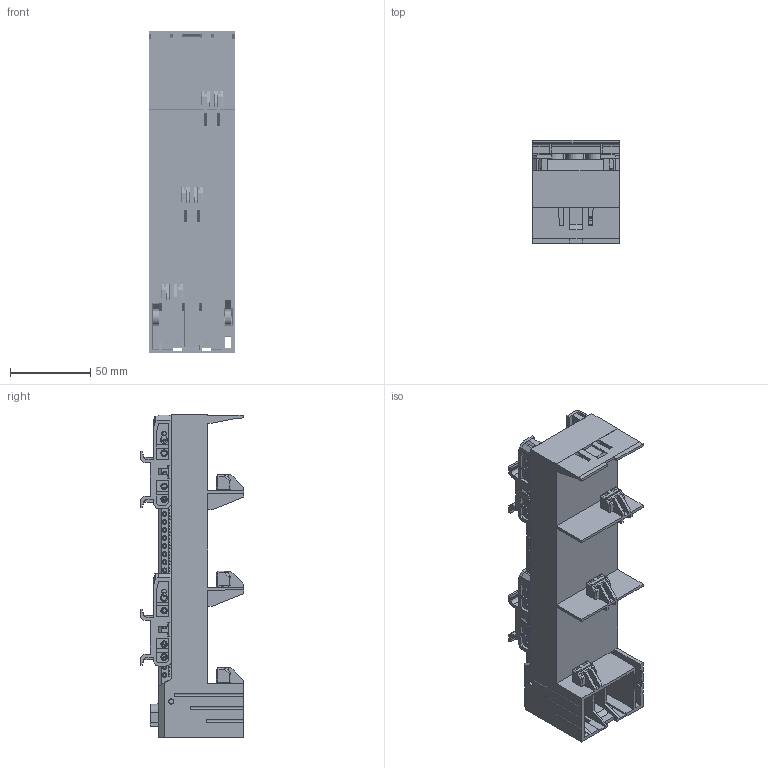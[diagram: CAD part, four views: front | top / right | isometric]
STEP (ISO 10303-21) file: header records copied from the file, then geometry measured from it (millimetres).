
FILE_DESCRIPTION (( 'STEP AP203' ), '1' );
FILE_NAME ('55325.STEP', '2021-08-18T06:55:22', ( '' ), ( '' ), 'SwSTEP 2.0', 'SolidWorks 2017', '' );
FILE_SCHEMA (( 'CONFIG_CONTROL_DESIGN' ));
Products named in the file (2): 55325
Bounding box: 54.05 x 64.3 x 200.4 mm (x, y, z)
Volume: 282046.8 mm3; surface area: 107096.8 mm2
Topology: 11 solids, 18 shells, 3145 faces, 8862 edges, 5873 vertices
Faces by surface type: plane 2181, cylinder 619, cone 181, bspline 161, torus 3
Full cylindrical faces by diameter (mm): 1.988 x130, 2.6 x14, 2.982 x14, 3.479 x8, 4.2 x2, 5 x36, 5.169 x2, 5.964 x11
Entity records: 157857 total; most frequent: CARTESIAN_POINT 82749, ORIENTED_EDGE 16508, DIRECTION 13283, EDGE_CURVE 8254, VERTEX_POINT 5654, VECTOR 5519, LINE 5519, AXIS2_PLACEMENT_3D 3882
